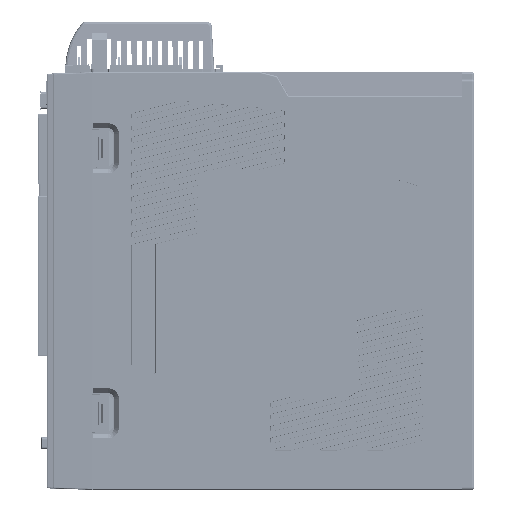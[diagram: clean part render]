
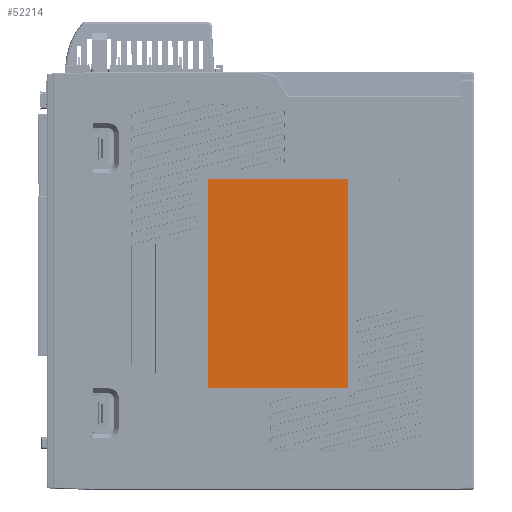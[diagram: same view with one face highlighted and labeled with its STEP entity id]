
A CAD part, top view. The second image highlights one B-rep face of the part: STEP entity #52214.
In plain terms, the highlighted planar face has unit normal (0, 0, 1).
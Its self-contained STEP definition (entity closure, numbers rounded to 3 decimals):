
#34121=CARTESIAN_POINT('',(4.962,-50.28,
27.719));
#34122=CARTESIAN_POINT('',(5.159,-50.28,
27.719));
#34123=CARTESIAN_POINT('',(5.406,-50.133,
27.719));
#34124=CARTESIAN_POINT('',(5.553,-49.886,
27.719));
#34125=CARTESIAN_POINT('',(5.553,-49.689,
27.719));
#34151=DIRECTION('',(-1.,0.,0.));
#34152=VECTOR('',#34151,57.638);
#34153=CARTESIAN_POINT('',(4.962,-50.28,
27.719));
#34154=LINE('',#34153,#34152);
#34158=DIRECTION('',(0.,1.,0.));
#34159=VECTOR('',#34158,86.418);
#34160=CARTESIAN_POINT('',(-53.267,-49.689,
27.719));
#34161=LINE('',#34160,#34159);
#34165=DIRECTION('',(1.,0.,0.));
#34166=VECTOR('',#34165,57.638);
#34167=CARTESIAN_POINT('',(-52.676,37.32,
27.719));
#34168=LINE('',#34167,#34166);
#34172=DIRECTION('',(0.,-1.,0.));
#34173=VECTOR('',#34172,86.418);
#34174=CARTESIAN_POINT('',(5.553,36.729,27.719));
#34175=LINE('',#34174,#34173);
#34209=CARTESIAN_POINT('',(-53.267,-49.689,
27.719));
#34210=CARTESIAN_POINT('',(-53.267,-49.886,
27.719));
#34211=CARTESIAN_POINT('',(-53.12,-50.133,
27.719));
#34212=CARTESIAN_POINT('',(-52.873,-50.28,
27.719));
#34213=CARTESIAN_POINT('',(-52.676,-50.28,
27.719));
#34248=CARTESIAN_POINT('',(-52.676,37.32,
27.719));
#34249=CARTESIAN_POINT('',(-52.873,37.32,
27.719));
#34250=CARTESIAN_POINT('',(-53.12,37.173,
27.719));
#34251=CARTESIAN_POINT('',(-53.267,36.926,
27.719));
#34252=CARTESIAN_POINT('',(-53.267,36.729,
27.719));
#34280=CARTESIAN_POINT('',(5.553,36.729,27.719));
#34281=CARTESIAN_POINT('',(5.553,36.926,27.719));
#34282=CARTESIAN_POINT('',(5.406,37.173,27.719));
#34283=CARTESIAN_POINT('',(5.159,37.32,27.719));
#34284=CARTESIAN_POINT('',(4.962,37.32,27.719));
#37365=CARTESIAN_POINT('',(5.553,-49.689,
27.719));
#37366=VERTEX_POINT('',#37365);
#37367=CARTESIAN_POINT('',(4.962,-50.28,
27.719));
#37368=VERTEX_POINT('',#37367);
#37369=CARTESIAN_POINT('',(5.553,36.729,27.719));
#37370=VERTEX_POINT('',#37369);
#37371=CARTESIAN_POINT('',(-52.676,-50.28,
27.719));
#37372=VERTEX_POINT('',#37371);
#37373=VERTEX_POINT('',#34209);
#37374=CARTESIAN_POINT('',(-53.267,36.729,
27.719));
#37375=VERTEX_POINT('',#37374);
#37376=VERTEX_POINT('',#34248);
#37377=CARTESIAN_POINT('',(4.962,37.32,27.719));
#37378=VERTEX_POINT('',#37377);
#52193=CARTESIAN_POINT('',(-60.62,-61.23,
27.719));
#52194=DIRECTION('',(0.,0.,1.));
#52195=DIRECTION('',(-1.,0.,0.));
#52196=AXIS2_PLACEMENT_3D('',#52193,#52194,#52195);
#52197=PLANE('',#52196);
#52198=ORIENTED_EDGE('',*,*,#52174,.F.);
#52200=ORIENTED_EDGE('',*,*,#52199,.T.);
#52202=ORIENTED_EDGE('',*,*,#52201,.F.);
#52204=ORIENTED_EDGE('',*,*,#52203,.T.);
#52206=ORIENTED_EDGE('',*,*,#52205,.F.);
#52208=ORIENTED_EDGE('',*,*,#52207,.T.);
#52210=ORIENTED_EDGE('',*,*,#52209,.F.);
#52211=ORIENTED_EDGE('',*,*,#52185,.T.);
#52212=EDGE_LOOP('',(#52198,#52200,#52202,#52204,#52206,#52208,#52210,#52211));
#52213=FACE_OUTER_BOUND('',#52212,.F.);
#34126=B_SPLINE_CURVE_WITH_KNOTS('',3,(#34121,#34122,#34123,#34124,#34125),
.UNSPECIFIED.,.F.,.F.,(4,1,4),(0.,0.5,1.),.UNSPECIFIED.);
#34214=B_SPLINE_CURVE_WITH_KNOTS('',3,(#34209,#34210,#34211,#34212,#34213),
.UNSPECIFIED.,.F.,.F.,(4,1,4),(0.,0.5,1.),.UNSPECIFIED.);
#34253=B_SPLINE_CURVE_WITH_KNOTS('',3,(#34248,#34249,#34250,#34251,#34252),
.UNSPECIFIED.,.F.,.F.,(4,1,4),(0.,0.5,1.),.UNSPECIFIED.);
#34285=B_SPLINE_CURVE_WITH_KNOTS('',3,(#34280,#34281,#34282,#34283,#34284),
.UNSPECIFIED.,.F.,.F.,(4,1,4),(0.,0.5,1.),.UNSPECIFIED.);
#52174=EDGE_CURVE('',#37368,#37366,#34126,.T.);
#52185=EDGE_CURVE('',#37370,#37366,#34175,.T.);
#52199=EDGE_CURVE('',#37368,#37372,#34154,.T.);
#52201=EDGE_CURVE('',#37373,#37372,#34214,.T.);
#52203=EDGE_CURVE('',#37373,#37375,#34161,.T.);
#52205=EDGE_CURVE('',#37376,#37375,#34253,.T.);
#52207=EDGE_CURVE('',#37376,#37378,#34168,.T.);
#52209=EDGE_CURVE('',#37370,#37378,#34285,.T.);
#52214=ADVANCED_FACE('',(#52213),#52197,.T.);
